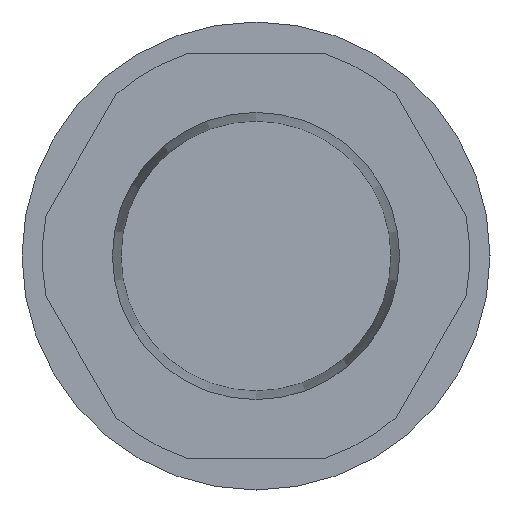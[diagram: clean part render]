
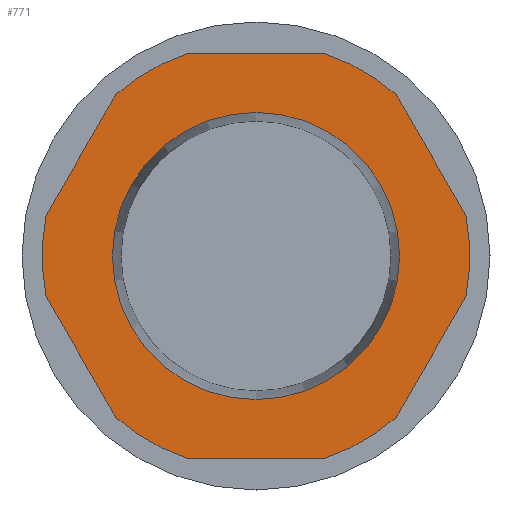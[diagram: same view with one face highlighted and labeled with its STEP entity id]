
A CAD part, left-side view. The second image highlights one B-rep face of the part: STEP entity #771.
In plain terms, the highlighted planar face has unit normal (-1, 0, 0).
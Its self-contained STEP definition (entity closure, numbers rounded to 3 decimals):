
#84=CARTESIAN_POINT('',(-27.75,0.,6.75));
#85=VERTEX_POINT('',#84);
#86=CARTESIAN_POINT('',(-27.75,0.0,0.0));
#87=DIRECTION('',(1.0,0.0,0.0));
#88=DIRECTION('',(0.0,0.0,-1.0));
#89=AXIS2_PLACEMENT_3D('',#86,#87,#88);
#90=CIRCLE('',#89,6.75);
#91=EDGE_CURVE('',#85,#85,#90,.T.);
#460=CARTESIAN_POINT('',(-27.75,3.279,9.5));
#461=VERTEX_POINT('',#460);
#469=CARTESIAN_POINT('',(-27.75,6.588,7.59));
#470=VERTEX_POINT('',#469);
#477=CARTESIAN_POINT('',(-27.75,0.0,0.0));
#478=DIRECTION('',(1.0,0.0,0.0));
#479=DIRECTION('',(0.0,-1.0,0.0));
#480=AXIS2_PLACEMENT_3D('',#477,#478,#479);
#481=CIRCLE('',#480,10.05);
#482=EDGE_CURVE('',#470,#461,#481,.T.);
#492=CARTESIAN_POINT('',(-27.75,-6.588,7.59));
#493=VERTEX_POINT('',#492);
#501=CARTESIAN_POINT('',(-27.75,-3.279,9.5));
#502=VERTEX_POINT('',#501);
#509=CARTESIAN_POINT('',(-27.75,0.0,0.0));
#510=DIRECTION('',(1.0,0.0,0.0));
#511=DIRECTION('',(0.0,-1.0,0.0));
#512=AXIS2_PLACEMENT_3D('',#509,#510,#511);
#513=CIRCLE('',#512,10.05);
#514=EDGE_CURVE('',#502,#493,#513,.T.);
#524=CARTESIAN_POINT('',(-27.75,9.867,-1.91));
#525=VERTEX_POINT('',#524);
#532=CARTESIAN_POINT('',(-27.75,9.867,1.91));
#533=VERTEX_POINT('',#532);
#534=CARTESIAN_POINT('',(-27.75,0.0,0.0));
#535=DIRECTION('',(1.0,0.0,0.0));
#536=DIRECTION('',(0.0,-1.0,0.0));
#537=AXIS2_PLACEMENT_3D('',#534,#535,#536);
#538=CIRCLE('',#537,10.05);
#539=EDGE_CURVE('',#525,#533,#538,.T.);
#556=CARTESIAN_POINT('',(-27.75,-9.867,-1.91));
#557=VERTEX_POINT('',#556);
#565=CARTESIAN_POINT('',(-27.75,-9.867,1.91));
#566=VERTEX_POINT('',#565);
#573=CARTESIAN_POINT('',(-27.75,0.0,0.0));
#574=DIRECTION('',(1.0,0.0,0.0));
#575=DIRECTION('',(0.0,-1.0,0.0));
#576=AXIS2_PLACEMENT_3D('',#573,#574,#575);
#577=CIRCLE('',#576,10.05);
#578=EDGE_CURVE('',#566,#557,#577,.T.);
#588=CARTESIAN_POINT('',(-27.75,3.279,-9.5));
#589=VERTEX_POINT('',#588);
#596=CARTESIAN_POINT('',(-27.75,6.588,-7.59));
#597=VERTEX_POINT('',#596);
#598=CARTESIAN_POINT('',(-27.75,0.0,0.0));
#599=DIRECTION('',(1.0,0.0,0.0));
#600=DIRECTION('',(0.0,-1.0,0.0));
#601=AXIS2_PLACEMENT_3D('',#598,#599,#600);
#602=CIRCLE('',#601,10.05);
#603=EDGE_CURVE('',#589,#597,#602,.T.);
#620=CARTESIAN_POINT('',(-27.75,-3.279,-9.5));
#621=VERTEX_POINT('',#620);
#629=CARTESIAN_POINT('',(-27.75,-6.588,-7.59));
#630=VERTEX_POINT('',#629);
#637=CARTESIAN_POINT('',(-27.75,0.0,0.0));
#638=DIRECTION('',(1.0,0.0,0.0));
#639=DIRECTION('',(0.0,-1.0,0.0));
#640=AXIS2_PLACEMENT_3D('',#637,#638,#639);
#641=CIRCLE('',#640,10.05);
#642=EDGE_CURVE('',#630,#621,#641,.T.);
#653=CARTESIAN_POINT('',(-27.75,-3.279,-9.5));
#654=DIRECTION('',(0.0,1.0,0.0));
#655=VECTOR('',#654,6.558);
#656=LINE('',#653,#655);
#657=EDGE_CURVE('',#621,#589,#656,.T.);
#672=CARTESIAN_POINT('',(-27.75,-9.867,-1.91));
#673=DIRECTION('',(0.0,0.5,-0.866));
#674=VECTOR('',#673,6.558);
#675=LINE('',#672,#674);
#676=EDGE_CURVE('',#557,#630,#675,.T.);
#687=CARTESIAN_POINT('',(-27.75,6.588,-7.59));
#688=DIRECTION('',(0.0,0.5,0.866));
#689=VECTOR('',#688,6.558);
#690=LINE('',#687,#689);
#691=EDGE_CURVE('',#597,#525,#690,.T.);
#706=CARTESIAN_POINT('',(-27.75,-6.588,7.59));
#707=DIRECTION('',(0.0,-0.5,-0.866));
#708=VECTOR('',#707,6.558);
#709=LINE('',#706,#708);
#710=EDGE_CURVE('',#493,#566,#709,.T.);
#723=CARTESIAN_POINT('',(-27.75,3.279,9.5));
#724=DIRECTION('',(0.0,-1.0,0.0));
#725=VECTOR('',#724,6.558);
#726=LINE('',#723,#725);
#727=EDGE_CURVE('',#461,#502,#726,.T.);
#738=CARTESIAN_POINT('',(-27.75,9.867,1.91));
#739=DIRECTION('',(0.0,-0.5,0.866));
#740=VECTOR('',#739,6.558);
#741=LINE('',#738,#740);
#742=EDGE_CURVE('',#533,#470,#741,.T.);
#749=CARTESIAN_POINT('',(-27.75,0.,0.0));
#750=DIRECTION('',(1.0,0.0,0.0));
#751=DIRECTION('',(0.0,0.0,-1.0));
#752=AXIS2_PLACEMENT_3D('',#749,#750,#751);
#753=PLANE('',#752);
#754=ORIENTED_EDGE('',*,*,#642,.F.);
#755=ORIENTED_EDGE('',*,*,#676,.F.);
#756=ORIENTED_EDGE('',*,*,#578,.F.);
#757=ORIENTED_EDGE('',*,*,#710,.F.);
#758=ORIENTED_EDGE('',*,*,#514,.F.);
#759=ORIENTED_EDGE('',*,*,#727,.F.);
#760=ORIENTED_EDGE('',*,*,#482,.F.);
#761=ORIENTED_EDGE('',*,*,#742,.F.);
#762=ORIENTED_EDGE('',*,*,#539,.F.);
#763=ORIENTED_EDGE('',*,*,#691,.F.);
#764=ORIENTED_EDGE('',*,*,#603,.F.);
#765=ORIENTED_EDGE('',*,*,#657,.F.);
#766=EDGE_LOOP('',(#754,#755,#756,#757,#758,#759,#760,#761,#762,#763,#764,#765));
#767=FACE_OUTER_BOUND('',#766,.T.);
#768=ORIENTED_EDGE('',*,*,#91,.T.);
#769=EDGE_LOOP('',(#768));
#770=FACE_BOUND('',#769,.T.);
#771=ADVANCED_FACE('',(#767,#770),#753,.F.);
